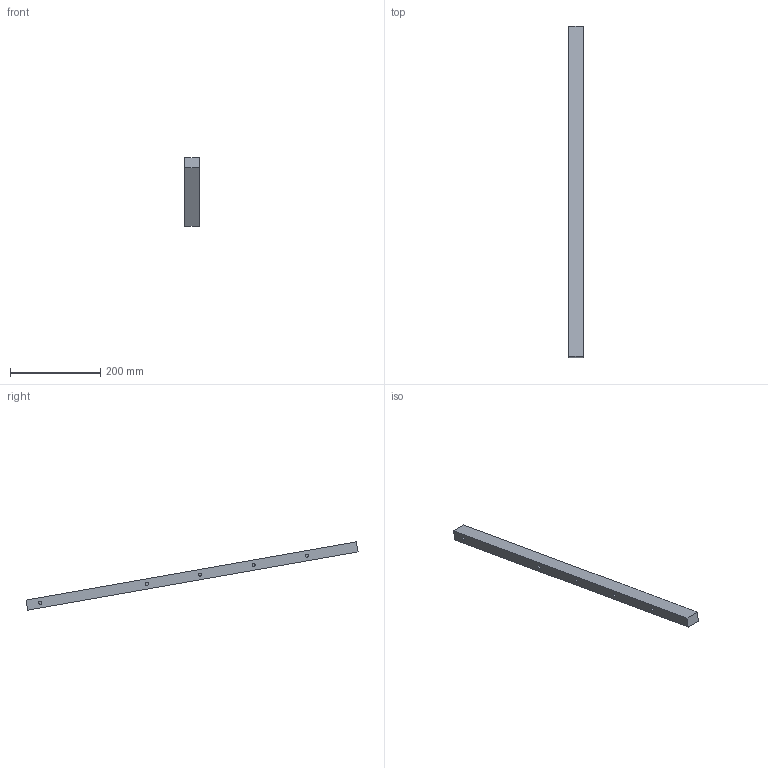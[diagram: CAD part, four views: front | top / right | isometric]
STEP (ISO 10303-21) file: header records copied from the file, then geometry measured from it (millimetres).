
FILE_DESCRIPTION(('golf model'),'2;1');
FILE_NAME('golf','',(''),(''),'golf_step_io','golf','');
FILE_SCHEMA(('AUTOMOTIVE_DESIGN { 1 0 10303 214 1 1 1 1 }'));
Length unit declared in the file: millimetre
Products named in the file (2): ASSEMBLY; y_carriage.z_riser_l
Assembly tree (1 placements, depth 2):
  ASSEMBLY
    y_carriage.z_riser_l
Bounding box: 32 x 735.71 x 151.67 mm (x, y, z)
Volume: 540644 mm3; surface area: 87550 mm2
Topology: 1 solids, 1 shells, 40 faces, 80 edges, 59 vertices
Faces by surface type: plane 23, cylinder 17
Full cylindrical faces by diameter (mm): 5 x12, 6.8 x5
Entity records: 870 total; most frequent: DIRECTION 164, CARTESIAN_POINT 130, ORIENTED_EDGE 92, AXIS2_PLACEMENT_3D 76, EDGE_LOOP 74, FACE_BOUND 72, EDGE_CURVE 46, VERTEX_POINT 42
